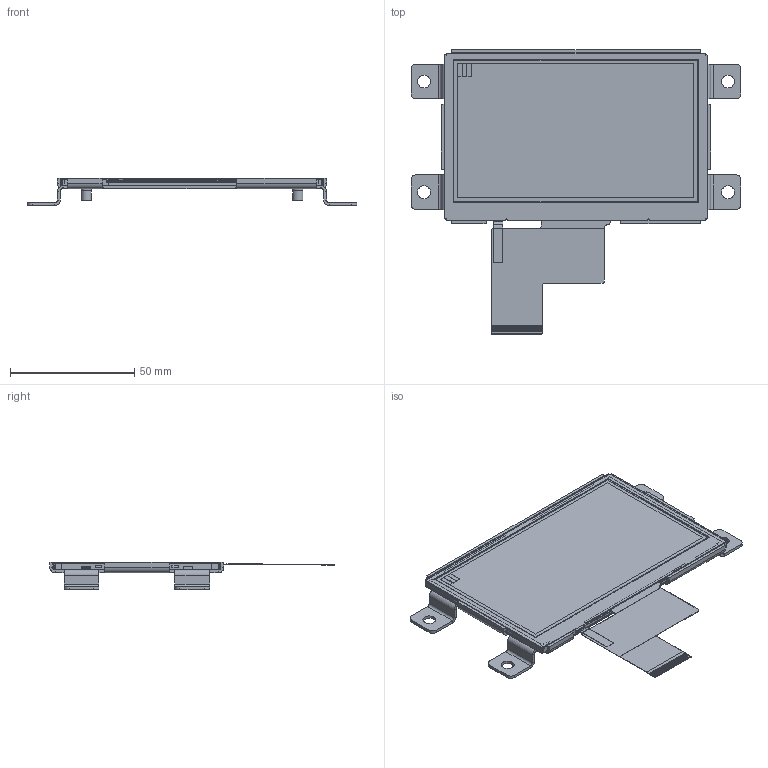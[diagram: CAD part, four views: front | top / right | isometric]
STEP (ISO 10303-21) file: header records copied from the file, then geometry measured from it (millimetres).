
FILE_DESCRIPTION (( 'STEP AP214' ), '1' );
FILE_NAME ('NHD-4.3-480272MB-ATXL.STEP', '2017-12-05T21:49:04', ( '' ), ( '' ), 'SwSTEP 2.0', 'SolidWorks 2017', '' );
FILE_SCHEMA (( 'AUTOMOTIVE_DESIGN' ));
Length unit declared in the file: millimetre
Products named in the file (7): NHD-4.3-B; NHD-4.3-480272MB-ATXL; NHD-4.3-480272EF; PANEL; BLU; BEZEL; BSO4-M3-6
Assembly tree (9 placements, depth 3):
  NHD-4.3-480272MB-ATXL
    NHD-4.3-B
    BSO4-M3-6  x4
    NHD-4.3-480272EF
      BEZEL
      BLU
      PANEL
Bounding box: 132.58 x 114.23 x 10.91 mm (x, y, z)
Volume: 10998.4 mm3; surface area: 82820 mm2
Topology: 6 solids, 10 shells, 789 faces, 2099 edges, 1342 vertices
Faces by surface type: plane 625, cylinder 144, cone 16, bspline 4
Entity records: 23309 total; most frequent: CARTESIAN_POINT 3912, ORIENTED_EDGE 3794, DIRECTION 3571, EDGE_CURVE 1905, VECTOR 1655, LINE 1655, VERTEX_POINT 1219, AXIS2_PLACEMENT_3D 958
